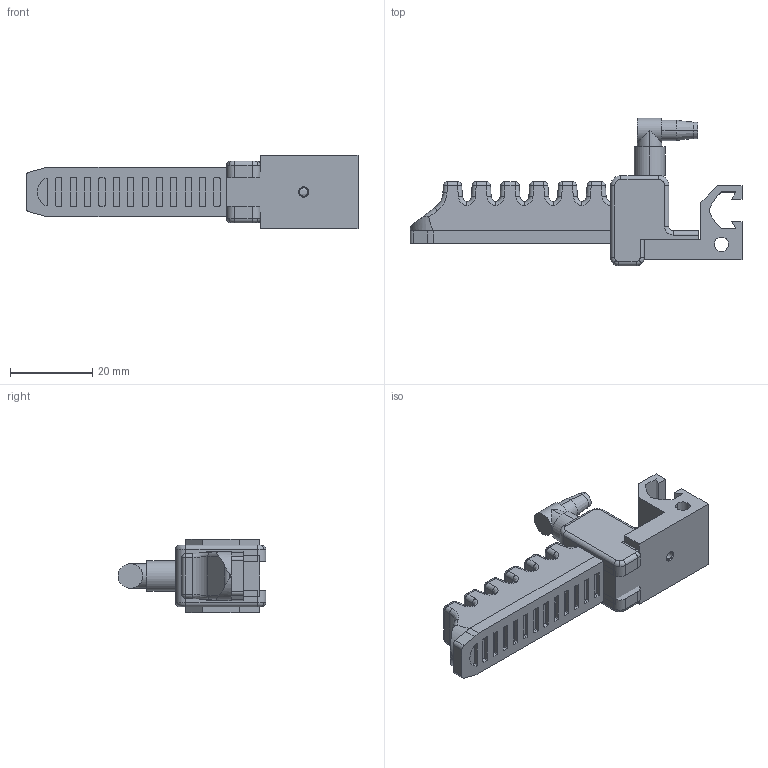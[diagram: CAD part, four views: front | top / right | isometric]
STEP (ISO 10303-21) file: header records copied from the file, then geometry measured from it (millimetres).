
FILE_DESCRIPTION (( 'STEP AP214' ), '1' );
FILE_NAME ('GFM-C7V5.STEP', '2019-12-04T06:04:06', ( '微软用户' ), ( '微软中国' ), 'SwSTEP 2.0', 'SolidWorks 2016', '' );
FILE_SCHEMA (( 'AUTOMOTIVE_DESIGN' ));
Length unit declared in the file: millimetre
Products named in the file (1): GFM-C7V5
Bounding box: 80.85 x 36 x 18 mm (x, y, z)
Volume: 14453 mm3; surface area: 9766.9 mm2
Topology: 4 solids, 4 shells, 404 faces, 971 edges, 592 vertices
Faces by surface type: cylinder 182, plane 148, sphere 26, bspline 26, torus 14, cone 8
Entity records: 17964 total; most frequent: CARTESIAN_POINT 4127, DIRECTION 1981, ORIENTED_EDGE 1942, EDGE_CURVE 971, AXIS2_PLACEMENT_3D 722, VERTEX_POINT 592, LINE 537, VECTOR 537
